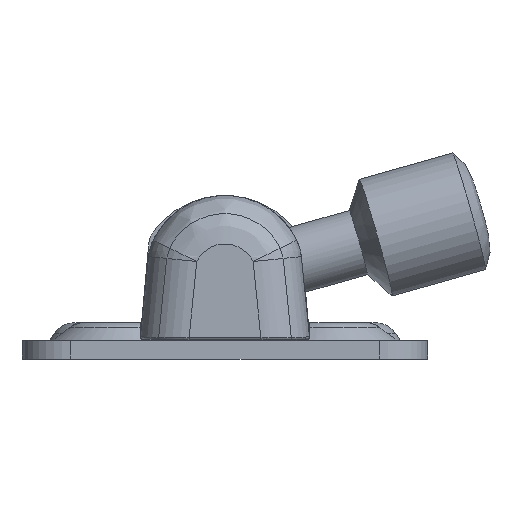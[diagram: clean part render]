
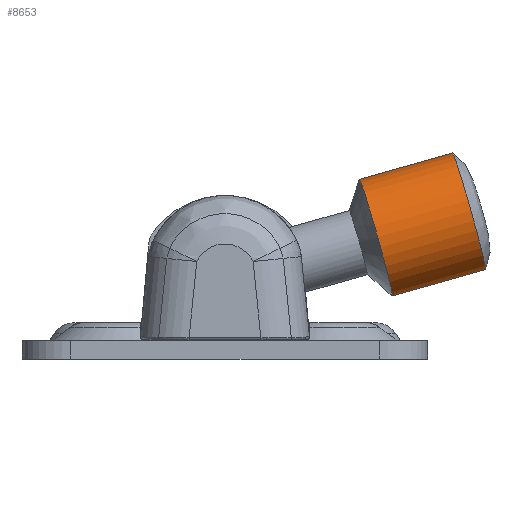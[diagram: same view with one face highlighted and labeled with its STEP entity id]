
A CAD part, left-side view. The second image highlights one B-rep face of the part: STEP entity #8653.
In plain terms, the highlighted cylindrical face has radius 5 mm (diameter 10 mm), a full revolution.
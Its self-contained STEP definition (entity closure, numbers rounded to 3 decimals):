
#316=CYLINDRICAL_SURFACE('',#9302,5.);
#518=FACE_BOUND('',#2641,.T.);
#2060=FACE_OUTER_BOUND('',#2640,.T.);
#2640=EDGE_LOOP('',(#6425));
#2641=EDGE_LOOP('',(#6426,#6427));
#3188=CIRCLE('',#9297,5.);
#3189=CIRCLE('',#9298,5.);
#3190=CIRCLE('',#9301,5.);
#3883=VERTEX_POINT('',#13885);
#3884=VERTEX_POINT('',#13889);
#3885=VERTEX_POINT('',#13894);
#4794=EDGE_CURVE('',#3883,#3884,#3188,.T.);
#4795=EDGE_CURVE('',#3884,#3883,#3189,.T.);
#4796=EDGE_CURVE('',#3885,#3885,#3190,.T.);
#6425=ORIENTED_EDGE('',*,*,#4796,.T.);
#6426=ORIENTED_EDGE('',*,*,#4795,.F.);
#6427=ORIENTED_EDGE('',*,*,#4794,.F.);
#8653=ADVANCED_FACE('',(#2060,#518),#316,.T.);
#9297=AXIS2_PLACEMENT_3D('',#13890,#10766,#10767);
#9298=AXIS2_PLACEMENT_3D('',#13891,#10768,#10769);
#9301=AXIS2_PLACEMENT_3D('',#13895,#10774,#10775);
#9302=AXIS2_PLACEMENT_3D('',#13896,#10776,#10777);
#10766=DIRECTION('center_axis',(0.035,0.999,0.));
#10767=DIRECTION('ref_axis',(0.999,-0.035,0.));
#10768=DIRECTION('center_axis',(0.035,0.999,0.));
#10769=DIRECTION('ref_axis',(0.999,-0.035,0.));
#10774=DIRECTION('center_axis',(0.035,0.999,0.));
#10775=DIRECTION('ref_axis',(-0.999,0.035,0.));
#10776=DIRECTION('center_axis',(0.035,0.999,0.));
#10777=DIRECTION('ref_axis',(-0.999,0.035,0.));
#13885=CARTESIAN_POINT('',(67.553,20.752,0.));
#13889=CARTESIAN_POINT('',(57.559,21.101,0.));
#13890=CARTESIAN_POINT('Origin',(62.556,20.926,0.));
#13891=CARTESIAN_POINT('Origin',(62.556,20.926,0.));
#13894=CARTESIAN_POINT('',(57.28,13.105,0.));
#13895=CARTESIAN_POINT('Origin',(62.277,12.931,0.));
#13896=CARTESIAN_POINT('Origin',(62.434,17.428,0.));
